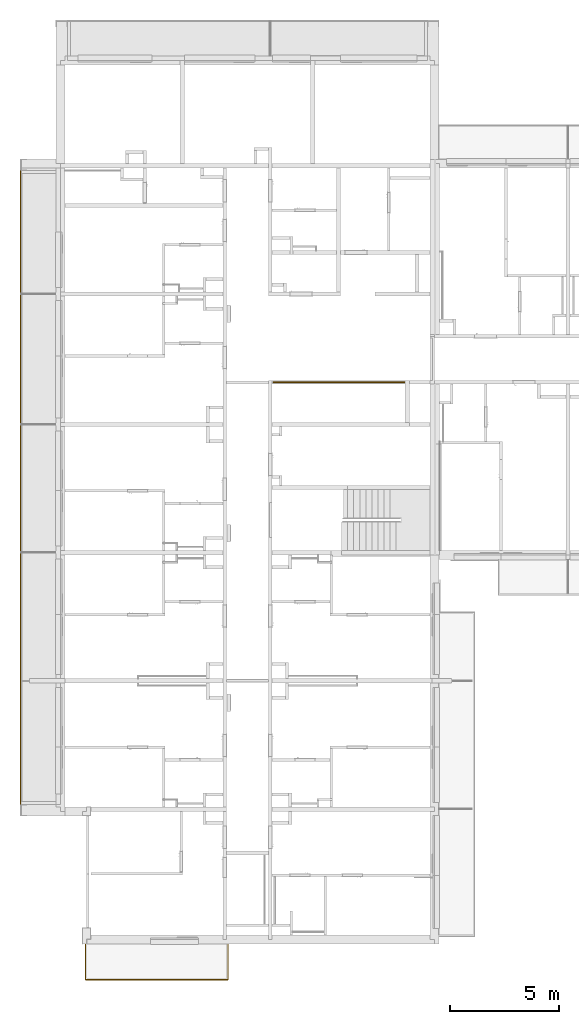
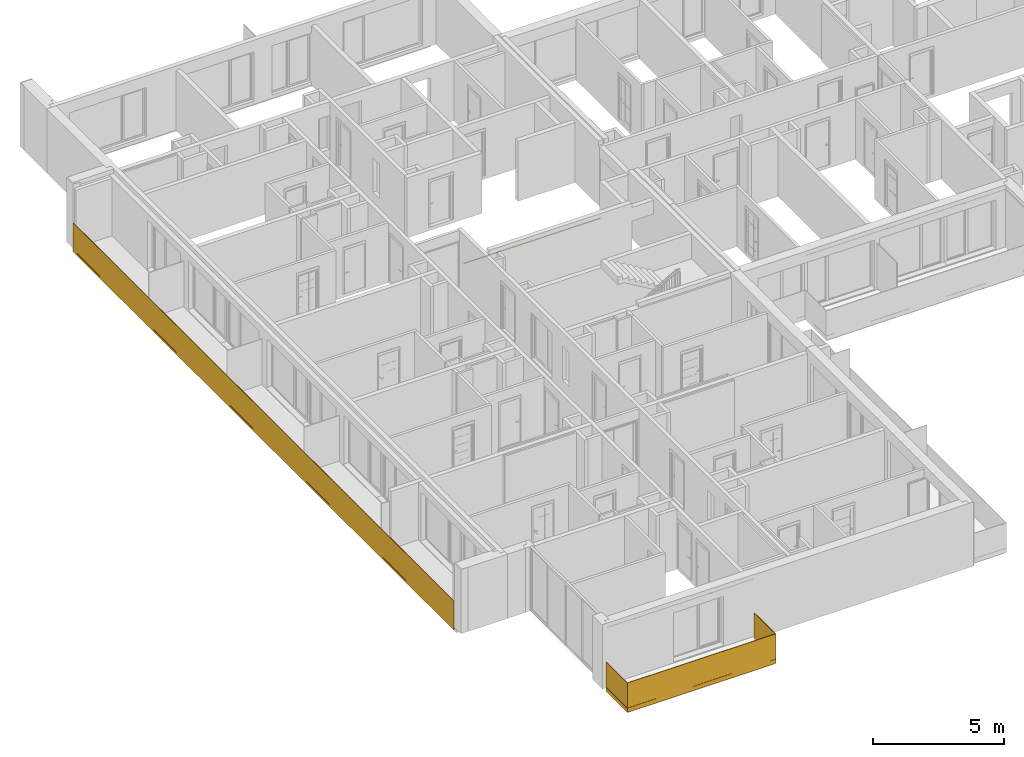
# One storey, part 3 of 64: 3 railings.
"""IFC2X3 building model written with IfcOpenShell, lengths in millimetres."""

from ifc_helpers import new_model, entity, si_unit, converted_unit, derived_unit, money_unit, direction, frame, origin_with_axes, place, context, subcontext, project, spatial, faceted_brep, material, material_list, type_object, element, save


model = new_model("IFC2X3")

# Units and contexts
model_context = context("Model", 3, precision=0.01, world=origin_with_axes(), true_north=direction((0.34421633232, 0.938890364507)))
body_context = subcontext(model_context, "Body", "Model", "MODEL_VIEW")
ifc_project = project(units=[si_unit("LENGTHUNIT", "METRE", prefix="MILLI"), si_unit("AREAUNIT", "SQUARE_METRE"), si_unit("VOLUMEUNIT", "CUBIC_METRE"), converted_unit("PLANEANGLEUNIT", "DEGREE", entity("IfcPlaneAngleMeasure", 0.0174532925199), si_unit("PLANEANGLEUNIT", "RADIAN"), dimensions=[0, 0, 0, 0, 0, 0, 0]), si_unit("SOLIDANGLEUNIT", "STERADIAN"), money_unit("USD"), converted_unit("TIMEUNIT", "Year", entity("IfcTimeMeasure", 31556926.0), si_unit("TIMEUNIT", "SECOND"), dimensions=[0, 0, 1, 0, 0, 0, 0]), si_unit("MASSUNIT", "GRAM", prefix="KILO"), si_unit("THERMODYNAMICTEMPERATUREUNIT", "DEGREE_CELSIUS"), si_unit("LUMINOUSINTENSITYUNIT", "LUMEN"), si_unit("ENERGYUNIT", "JOULE", prefix="MEGA"), derived_unit("THERMALCONDUCTANCEUNIT", [(si_unit("POWERUNIT", "WATT"), 1), (si_unit("LENGTHUNIT", "METRE"), -1), (si_unit("THERMODYNAMICTEMPERATUREUNIT", "KELVIN"), -1)]), derived_unit("SPECIFICHEATCAPACITYUNIT", [(si_unit("ENERGYUNIT", "JOULE"), 1), (si_unit("MASSUNIT", "GRAM", prefix="KILO"), -1), (si_unit("THERMODYNAMICTEMPERATUREUNIT", "KELVIN"), -1)]), derived_unit("MASSDENSITYUNIT", [(si_unit("MASSUNIT", "GRAM", prefix="KILO"), 1), (si_unit("VOLUMEUNIT", "CUBIC_METRE"), -1)])], contexts=[model_context])

# Site, building, storey
site_placement = place(None, origin_with_axes())
site = spatial("IfcSite", under=ifc_project, at=site_placement, Name="USTRONIE MORSKIE", CompositionType="ELEMENT")
building_placement = place(site_placement, origin_with_axes())
building = spatial("IfcBuilding", under=site, at=building_placement, Name="Budynek", CompositionType="ELEMENT")
storey_placement = place(building_placement, frame((0.0, 0.0, 7000.0), z_axis=(0.0, 0.0, 1.0), x_axis=(1.0, 0.0, 0.0)))
storey = spatial("IfcBuildingStorey", under=building, at=storey_placement, Name="PIĘTRO 2", CompositionType="ELEMENT", Elevation=7000.0)

# Railings
ifc_material_1 = material(Name="Szkło struktualne")
ifc_material_2 = material(Name="Profile aluminiowe")
ifc_material_list_1 = material_list([ifc_material_1, ifc_material_2])
railing_type = type_object("IfcRailingType", Name="Typ balustrady", PredefinedType="NOTDEFINED")
railing_1_placement = place(storey_placement, frame((348117.920919, 744471.199036, -200.0), z_axis=(0.0, 0.0, 1.0), x_axis=(-1.0, 0.0, 0.0)))
element("IfcRailing", 1, at=railing_1_placement, inside=storey, type_object=railing_type, material=ifc_material_list_1, Name="BL1", PredefinedType="NOTDEFINED", context=body_context, shape_type="Brep", body=[
    faceted_brep([(-9.99999999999, 29140.0, -100.0), (-9.99999999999, 0.0, -100.0), (-9.99999999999, 0.0, 1250.0), (-9.99999999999, 29140.0, 1250.0), (9.99999999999, 0.0, -100.0), (9.99999999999, 29140.0, -100.0), (9.99999999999, 0.0, 1250.0), (9.99999999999, 29140.0, 1250.0)], [[[0, 1, 2, 3]], [[4, 1, 0, 5]], [[6, 2, 1, 4]], [[3, 2, 6, 7]], [[0, 3, 7, 5]], [[6, 4, 5, 7]]]),
    faceted_brep([(15.0, 29140.0, -5.0), (15.0, 0.0, -5.0), (15.0, 0.0, -105.0), (15.0, 29140.0, -105.0), (9.99999999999, 29140.0, -5.0), (9.99999999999, 0.0, -5.0), (9.99999999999, 0.0, -100.0), (-9.99999999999, 0.0, -100.0), (-9.99999999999, 0.0, -5.0), (-15.0, 0.0, -5.0), (-15.0, 0.0, -105.0), (-15.0, 29140.0, -105.0), (-15.0, 29140.0, -5.0), (-9.99999999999, 29140.0, -5.0), (-9.99999999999, 29140.0, -100.0), (9.99999999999, 29140.0, -100.0)], [[[0, 1, 2, 3]], [[1, 0, 4, 5]], [[6, 7, 8, 9, 10, 2, 1, 5]], [[10, 11, 3, 2]], [[11, 12, 13, 14, 15, 4, 0, 3]], [[15, 6, 5, 4]], [[7, 6, 15, 14]], [[8, 7, 14, 13]], [[9, 8, 13, 12]], [[11, 10, 9, 12]]]),
])
ifc_material_3 = material(Name="Stal nierdzewna")
ifc_material_list_2 = material_list([ifc_material_3, ifc_material_3, ifc_material_3])
railing_2_placement = place(storey_placement, frame((365767.926125, 734741.198985, 0.0), z_axis=(0.0, 0.0, 1.0), x_axis=(-1.0, 0.0, 0.0)))
element("IfcRailing", 2, at=railing_2_placement, inside=storey, type_object=railing_type, material=ifc_material_list_2, Name="BL1", PredefinedType="NOTDEFINED", context=body_context, shape_type="Brep", body=[
    faceted_brep([(20.0, -25.0, 975.0), (20.0, -24.6201938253, 979.341204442), (-30.0, -24.6201938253, 979.341204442), (-30.0, -25.0, 975.0), (20.0, -24.6201938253, 970.658795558), (20.0, -23.4923155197, 966.449496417), (20.0, -21.6506350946, 962.5), (20.0, -19.151111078, 958.930309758), (20.0, -16.0696902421, 955.848888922), (20.0, -12.5, 953.349364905), (20.0, -8.55050358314, 951.50768448), (20.0, -4.34120444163, 950.379806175), (20.0, 0.0, 950.0), (20.0, 4.34120444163, 950.379806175), (20.0, 8.55050358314, 951.50768448), (20.0, 12.5, 953.349364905), (20.0, 16.0696902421, 955.848888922), (20.0, 19.151111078, 958.930309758), (20.0, 21.6506350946, 962.5), (20.0, 23.4923155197, 966.449496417), (20.0, 24.6201938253, 970.658795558), (20.0, 25.0, 975.0), (20.0, 24.6201938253, 979.341204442), (20.0, 23.4923155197, 983.550503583), (20.0, 21.6506350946, 987.5), (20.0, 19.151111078, 991.069690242), (20.0, 16.0696902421, 994.151111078), (20.0, 12.5, 996.650635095), (20.0, 8.55050358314, 998.49231552), (20.0, 4.34120444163, 999.620193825), (20.0, 0.0, 1000.0), (20.0, -4.34120444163, 999.620193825), (20.0, -8.55050358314, 998.49231552), (20.0, -12.5, 996.650635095), (20.0, -16.0696902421, 994.151111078), (20.0, -19.151111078, 991.069690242), (20.0, -21.6506350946, 987.5), (20.0, -23.4923155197, 983.550503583), (20.0, -15.0, 975.0), (20.0, -14.7721162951, 977.604722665), (20.0, -14.0953893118, 980.13030215), (20.0, -12.9903810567, 982.5), (20.0, -11.4906666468, 984.641814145), (20.0, -9.64181414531, 986.490666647), (20.0, -7.50000000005, 987.990381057), (20.0, -5.13030214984, 989.095389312), (20.0, -2.60472266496, 989.772116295), (20.0, 0.0, 990.0), (20.0, 2.60472266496, 989.772116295), (20.0, 5.13030214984, 989.095389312), (20.0, 7.50000000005, 987.990381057), (20.0, 9.64181414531, 986.490666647), (20.0, 11.4906666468, 984.641814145), (20.0, 12.9903810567, 982.5), (20.0, 14.0953893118, 980.13030215), (20.0, 14.7721162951, 977.604722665), (20.0, 15.0, 975.0), (20.0, 14.7721162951, 972.395277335), (20.0, 14.0953893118, 969.86969785), (20.0, 12.9903810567, 967.5), (20.0, 11.4906666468, 965.358185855), (20.0, 9.64181414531, 963.509333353), (20.0, 7.50000000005, 962.009618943), (20.0, 5.13030214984, 960.904610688), (20.0, 2.60472266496, 960.227883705), (20.0, 0.0, 960.0), (20.0, -2.60472266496, 960.227883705), (20.0, -5.13030214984, 960.904610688), (20.0, -7.50000000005, 962.009618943), (20.0, -9.64181414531, 963.509333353), (20.0, -11.4906666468, 965.358185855), (20.0, -12.9903810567, 967.5), (20.0, -14.0953893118, 969.86969785), (20.0, -14.7721162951, 972.395277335), (-30.0, -23.4923155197, 983.550503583), (-30.0, -21.6506350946, 987.5), (-30.0, -19.151111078, 991.069690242), (-30.0, -16.0696902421, 994.151111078), (-30.0, -12.5, 996.650635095), (-30.0, -8.55050358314, 998.49231552), (-30.0, -4.34120444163, 999.620193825), (-30.0, 0.0, 1000.0), (-30.0, 4.34120444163, 999.620193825), (-30.0, 8.55050358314, 998.49231552), (-30.0, 12.5, 996.650635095), (-30.0, 16.0696902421, 994.151111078), (-30.0, 19.151111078, 991.069690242), (-30.0, 21.6506350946, 987.5), (-30.0, 23.4923155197, 983.550503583), (-30.0, 24.6201938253, 979.341204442), (-30.0, 25.0, 975.0), (-30.0, 24.6201938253, 970.658795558), (-30.0, 23.4923155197, 966.449496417), (-30.0, 21.6506350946, 962.5), (-30.0, 19.151111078, 958.930309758), (-30.0, 16.0696902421, 955.848888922), (-30.0, 12.5, 953.349364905), (-30.0, 8.55050358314, 951.50768448), (-30.0, 4.34120444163, 950.379806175), (-30.0, 0.0, 950.0), (-30.0, -4.34120444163, 950.379806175), (-30.0, -8.55050358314, 951.50768448), (-30.0, -12.5, 953.349364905), (-30.0, -16.0696902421, 955.848888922), (-30.0, -19.151111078, 958.930309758), (-30.0, -21.6506350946, 962.5), (-30.0, -23.4923155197, 966.449496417), (-30.0, -24.6201938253, 970.658795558), (-30.0, -15.0, 975.0), (-30.0, -14.7721162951, 972.395277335), (-30.0, -14.0953893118, 969.86969785), (-30.0, -12.9903810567, 967.5), (-30.0, -11.4906666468, 965.358185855), (-30.0, -9.64181414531, 963.509333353), (-30.0, -7.50000000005, 962.009618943), (-30.0, -5.13030214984, 960.904610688), (-30.0, -2.60472266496, 960.227883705), (-30.0, 0.0, 960.0), (-30.0, 2.60472266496, 960.227883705), (-30.0, 5.13030214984, 960.904610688), (-30.0, 7.50000000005, 962.009618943), (-30.0, 9.64181414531, 963.509333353), (-30.0, 11.4906666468, 965.358185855), (-30.0, 12.9903810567, 967.5), (-30.0, 14.0953893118, 969.86969785), (-30.0, 14.7721162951, 972.395277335), (-30.0, 15.0, 975.0), (-30.0, 14.7721162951, 977.604722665), (-30.0, 14.0953893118, 980.13030215), (-30.0, 12.9903810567, 982.5), (-30.0, 11.4906666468, 984.641814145), (-30.0, 9.64181414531, 986.490666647), (-30.0, 7.50000000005, 987.990381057), (-30.0, 5.13030214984, 989.095389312), (-30.0, 2.60472266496, 989.772116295), (-30.0, 0.0, 990.0), (-30.0, -2.60472266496, 989.772116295), (-30.0, -5.13030214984, 989.095389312), (-30.0, -7.50000000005, 987.990381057), (-30.0, -9.64181414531, 986.490666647), (-30.0, -11.4906666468, 984.641814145), (-30.0, -12.9903810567, 982.5), (-30.0, -14.0953893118, 980.13030215), (-30.0, -14.7721162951, 977.604722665)], [[[0, 1, 2, 3]], [[0, 4, 5, 6, 7, 8, 9, 10, 11, 12, 13, 14, 15, 16, 17, 18, 19, 20, 21, 22, 23, 24, 25, 26, 27, 28, 29, 30, 31, 32, 33, 34, 35, 36, 37, 1], [38, 39, 40, 41, 42, 43, 44, 45, 46, 47, 48, 49, 50, 51, 52, 53, 54, 55, 56, 57, 58, 59, 60, 61, 62, 63, 64, 65, 66, 67, 68, 69, 70, 71, 72, 73]], [[1, 37, 74, 2]], [[3, 2, 74, 75, 76, 77, 78, 79, 80, 81, 82, 83, 84, 85, 86, 87, 88, 89, 90, 91, 92, 93, 94, 95, 96, 97, 98, 99, 100, 101, 102, 103, 104, 105, 106, 107], [108, 109, 110, 111, 112, 113, 114, 115, 116, 117, 118, 119, 120, 121, 122, 123, 124, 125, 126, 127, 128, 129, 130, 131, 132, 133, 134, 135, 136, 137, 138, 139, 140, 141, 142, 143]], [[4, 0, 3, 107]], [[5, 4, 107, 106]], [[6, 5, 106, 105]], [[7, 6, 105, 104]], [[8, 7, 104, 103]], [[9, 8, 103, 102]], [[10, 9, 102, 101]], [[11, 10, 101, 100]], [[12, 11, 100, 99]], [[13, 12, 99, 98]], [[14, 13, 98, 97]], [[15, 14, 97, 96]], [[16, 15, 96, 95]], [[17, 16, 95, 94]], [[18, 17, 94, 93]], [[19, 18, 93, 92]], [[20, 19, 92, 91]], [[21, 20, 91, 90]], [[22, 21, 90, 89]], [[23, 22, 89, 88]], [[24, 23, 88, 87]], [[25, 24, 87, 86]], [[26, 25, 86, 85]], [[27, 26, 85, 84]], [[28, 27, 84, 83]], [[29, 28, 83, 82]], [[30, 29, 82, 81]], [[31, 30, 81, 80]], [[32, 31, 80, 79]], [[33, 32, 79, 78]], [[34, 33, 78, 77]], [[35, 34, 77, 76]], [[36, 35, 76, 75]], [[37, 36, 75, 74]], [[39, 38, 108, 143]], [[40, 39, 143, 142]], [[41, 40, 142, 141]], [[42, 41, 141, 140]], [[43, 42, 140, 139]], [[44, 43, 139, 138]], [[45, 44, 138, 137]], [[46, 45, 137, 136]], [[47, 46, 136, 135]], [[48, 47, 135, 134]], [[49, 48, 134, 133]], [[50, 49, 133, 132]], [[51, 50, 132, 131]], [[52, 51, 131, 130]], [[53, 52, 130, 129]], [[54, 53, 129, 128]], [[55, 54, 128, 127]], [[56, 55, 127, 126]], [[57, 56, 126, 125]], [[58, 57, 125, 124]], [[59, 58, 124, 123]], [[60, 59, 123, 122]], [[61, 60, 122, 121]], [[62, 61, 121, 120]], [[63, 62, 120, 119]], [[64, 63, 119, 118]], [[65, 64, 118, 117]], [[66, 65, 117, 116]], [[67, 66, 116, 115]], [[68, 67, 115, 114]], [[69, 68, 114, 113]], [[70, 69, 113, 112]], [[71, 70, 112, 111]], [[72, 71, 111, 110]], [[73, 72, 110, 109]], [[38, 73, 109, 108]]]),
    faceted_brep([(5970.00520575, 25.0, 975.0), (5970.00520575, 24.6201938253, 979.341204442), (6020.00520575, 24.6201938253, 979.341204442), (6020.00520575, 25.0, 975.0), (5970.00520575, 24.6201938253, 970.658795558), (5970.00520575, 23.4923155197, 966.449496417), (5970.00520575, 21.6506350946, 962.5), (5970.00520575, 19.151111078, 958.930309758), (5970.00520575, 16.0696902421, 955.848888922), (5970.00520575, 12.5, 953.349364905), (5970.00520575, 8.55050358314, 951.50768448), (5970.00520575, 4.34120444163, 950.379806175), (5970.00520575, 0.0, 950.0), (5970.00520575, -4.34120444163, 950.379806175), (5970.00520575, -8.55050358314, 951.50768448), (5970.00520575, -12.5, 953.349364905), (5970.00520575, -16.0696902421, 955.848888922), (5970.00520575, -19.151111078, 958.930309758), (5970.00520575, -21.6506350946, 962.5), (5970.00520575, -23.4923155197, 966.449496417), (5970.00520575, -24.6201938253, 970.658795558), (5970.00520575, -25.0, 975.0), (5970.00520575, -24.6201938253, 979.341204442), (5970.00520575, -23.4923155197, 983.550503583), (5970.00520575, -21.6506350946, 987.5), (5970.00520575, -19.151111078, 991.069690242), (5970.00520575, -16.0696902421, 994.151111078), (5970.00520575, -12.5, 996.650635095), (5970.00520575, -8.55050358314, 998.49231552), (5970.00520575, -4.34120444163, 999.620193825), (5970.00520575, 0.0, 1000.0), (5970.00520575, 4.34120444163, 999.620193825), (5970.00520575, 8.55050358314, 998.49231552), (5970.00520575, 12.5, 996.650635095), (5970.00520575, 16.0696902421, 994.151111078), (5970.00520575, 19.151111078, 991.069690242), (5970.00520575, 21.6506350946, 987.5), (5970.00520575, 23.4923155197, 983.550503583), (5970.00520575, 15.0, 975.0), (5970.00520575, 14.7721162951, 977.604722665), (5970.00520575, 14.0953893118, 980.13030215), (5970.00520575, 12.9903810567, 982.5), (5970.00520575, 11.4906666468, 984.641814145), (5970.00520575, 9.64181414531, 986.490666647), (5970.00520575, 7.50000000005, 987.990381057), (5970.00520575, 5.13030214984, 989.095389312), (5970.00520575, 2.60472266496, 989.772116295), (5970.00520575, 0.0, 990.0), (5970.00520575, -2.60472266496, 989.772116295), (5970.00520575, -5.13030214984, 989.095389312), (5970.00520575, -7.50000000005, 987.990381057), (5970.00520575, -9.64181414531, 986.490666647), (5970.00520575, -11.4906666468, 984.641814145), (5970.00520575, -12.9903810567, 982.5), (5970.00520575, -14.0953893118, 980.13030215), (5970.00520575, -14.7721162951, 977.604722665), (5970.00520575, -15.0, 975.0), (5970.00520575, -14.7721162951, 972.395277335), (5970.00520575, -14.0953893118, 969.86969785), (5970.00520575, -12.9903810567, 967.5), (5970.00520575, -11.4906666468, 965.358185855), (5970.00520575, -9.64181414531, 963.509333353), (5970.00520575, -7.50000000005, 962.009618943), (5970.00520575, -5.13030214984, 960.904610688), (5970.00520575, -2.60472266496, 960.227883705), (5970.00520575, 0.0, 960.0), (5970.00520575, 2.60472266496, 960.227883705), (5970.00520575, 5.13030214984, 960.904610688), (5970.00520575, 7.50000000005, 962.009618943), (5970.00520575, 9.64181414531, 963.509333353), (5970.00520575, 11.4906666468, 965.358185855), (5970.00520575, 12.9903810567, 967.5), (5970.00520575, 14.0953893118, 969.86969785), (5970.00520575, 14.7721162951, 972.395277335), (6020.00520575, 23.4923155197, 983.550503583), (6020.00520575, 21.6506350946, 987.5), (6020.00520575, 19.151111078, 991.069690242), (6020.00520575, 16.0696902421, 994.151111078), (6020.00520575, 12.5, 996.650635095), (6020.00520575, 8.55050358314, 998.49231552), (6020.00520575, 4.34120444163, 999.620193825), (6020.00520575, 0.0, 1000.0), (6020.00520575, -4.34120444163, 999.620193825), (6020.00520575, -8.55050358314, 998.49231552), (6020.00520575, -12.5, 996.650635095), (6020.00520575, -16.0696902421, 994.151111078), (6020.00520575, -19.151111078, 991.069690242), (6020.00520575, -21.6506350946, 987.5), (6020.00520575, -23.4923155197, 983.550503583), (6020.00520575, -24.6201938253, 979.341204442), (6020.00520575, -25.0, 975.0), (6020.00520575, -24.6201938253, 970.658795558), (6020.00520575, -23.4923155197, 966.449496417), (6020.00520575, -21.6506350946, 962.5), (6020.00520575, -19.151111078, 958.930309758), (6020.00520575, -16.0696902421, 955.848888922), (6020.00520575, -12.5, 953.349364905), (6020.00520575, -8.55050358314, 951.50768448), (6020.00520575, -4.34120444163, 950.379806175), (6020.00520575, 0.0, 950.0), (6020.00520575, 4.34120444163, 950.379806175), (6020.00520575, 8.55050358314, 951.50768448), (6020.00520575, 12.5, 953.349364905), (6020.00520575, 16.0696902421, 955.848888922), (6020.00520575, 19.151111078, 958.930309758), (6020.00520575, 21.6506350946, 962.5), (6020.00520575, 23.4923155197, 966.449496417), (6020.00520575, 24.6201938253, 970.658795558), (6020.00520575, 15.0, 975.0), (6020.00520575, 14.7721162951, 972.395277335), (6020.00520575, 14.0953893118, 969.86969785), (6020.00520575, 12.9903810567, 967.5), (6020.00520575, 11.4906666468, 965.358185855), (6020.00520575, 9.64181414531, 963.509333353), (6020.00520575, 7.50000000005, 962.009618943), (6020.00520575, 5.13030214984, 960.904610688), (6020.00520575, 2.60472266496, 960.227883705), (6020.00520575, 0.0, 960.0), (6020.00520575, -2.60472266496, 960.227883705), (6020.00520575, -5.13030214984, 960.904610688), (6020.00520575, -7.50000000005, 962.009618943), (6020.00520575, -9.64181414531, 963.509333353), (6020.00520575, -11.4906666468, 965.358185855), (6020.00520575, -12.9903810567, 967.5), (6020.00520575, -14.0953893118, 969.86969785), (6020.00520575, -14.7721162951, 972.395277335), (6020.00520575, -15.0, 975.0), (6020.00520575, -14.7721162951, 977.604722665), (6020.00520575, -14.0953893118, 980.13030215), (6020.00520575, -12.9903810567, 982.5), (6020.00520575, -11.4906666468, 984.641814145), (6020.00520575, -9.64181414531, 986.490666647), (6020.00520575, -7.50000000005, 987.990381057), (6020.00520575, -5.13030214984, 989.095389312), (6020.00520575, -2.60472266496, 989.772116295), (6020.00520575, 0.0, 990.0), (6020.00520575, 2.60472266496, 989.772116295), (6020.00520575, 5.13030214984, 989.095389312), (6020.00520575, 7.50000000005, 987.990381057), (6020.00520575, 9.64181414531, 986.490666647), (6020.00520575, 11.4906666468, 984.641814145), (6020.00520575, 12.9903810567, 982.5), (6020.00520575, 14.0953893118, 980.13030215), (6020.00520575, 14.7721162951, 977.604722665)], [[[0, 1, 2, 3]], [[0, 4, 5, 6, 7, 8, 9, 10, 11, 12, 13, 14, 15, 16, 17, 18, 19, 20, 21, 22, 23, 24, 25, 26, 27, 28, 29, 30, 31, 32, 33, 34, 35, 36, 37, 1], [38, 39, 40, 41, 42, 43, 44, 45, 46, 47, 48, 49, 50, 51, 52, 53, 54, 55, 56, 57, 58, 59, 60, 61, 62, 63, 64, 65, 66, 67, 68, 69, 70, 71, 72, 73]], [[1, 37, 74, 2]], [[3, 2, 74, 75, 76, 77, 78, 79, 80, 81, 82, 83, 84, 85, 86, 87, 88, 89, 90, 91, 92, 93, 94, 95, 96, 97, 98, 99, 100, 101, 102, 103, 104, 105, 106, 107], [108, 109, 110, 111, 112, 113, 114, 115, 116, 117, 118, 119, 120, 121, 122, 123, 124, 125, 126, 127, 128, 129, 130, 131, 132, 133, 134, 135, 136, 137, 138, 139, 140, 141, 142, 143]], [[4, 0, 3, 107]], [[5, 4, 107, 106]], [[6, 5, 106, 105]], [[7, 6, 105, 104]], [[8, 7, 104, 103]], [[9, 8, 103, 102]], [[10, 9, 102, 101]], [[11, 10, 101, 100]], [[12, 11, 100, 99]], [[13, 12, 99, 98]], [[14, 13, 98, 97]], [[15, 14, 97, 96]], [[16, 15, 96, 95]], [[17, 16, 95, 94]], [[18, 17, 94, 93]], [[19, 18, 93, 92]], [[20, 19, 92, 91]], [[21, 20, 91, 90]], [[22, 21, 90, 89]], [[23, 22, 89, 88]], [[24, 23, 88, 87]], [[25, 24, 87, 86]], [[26, 25, 86, 85]], [[27, 26, 85, 84]], [[28, 27, 84, 83]], [[29, 28, 83, 82]], [[30, 29, 82, 81]], [[31, 30, 81, 80]], [[32, 31, 80, 79]], [[33, 32, 79, 78]], [[34, 33, 78, 77]], [[35, 34, 77, 76]], [[36, 35, 76, 75]], [[37, 36, 75, 74]], [[39, 38, 108, 143]], [[40, 39, 143, 142]], [[41, 40, 142, 141]], [[42, 41, 141, 140]], [[43, 42, 140, 139]], [[44, 43, 139, 138]], [[45, 44, 138, 137]], [[46, 45, 137, 136]], [[47, 46, 136, 135]], [[48, 47, 135, 134]], [[49, 48, 134, 133]], [[50, 49, 133, 132]], [[51, 50, 132, 131]], [[52, 51, 131, 130]], [[53, 52, 130, 129]], [[54, 53, 129, 128]], [[55, 54, 128, 127]], [[56, 55, 127, 126]], [[57, 56, 126, 125]], [[58, 57, 125, 124]], [[59, 58, 124, 123]], [[60, 59, 123, 122]], [[61, 60, 122, 121]], [[62, 61, 121, 120]], [[63, 62, 120, 119]], [[64, 63, 119, 118]], [[65, 64, 118, 117]], [[66, 65, 117, 116]], [[67, 66, 116, 115]], [[68, 67, 115, 114]], [[69, 68, 114, 113]], [[70, 69, 113, 112]], [[71, 70, 112, 111]], [[72, 71, 111, 110]], [[73, 72, 110, 109]], [[38, 73, 109, 108]]]),
    faceted_brep([(20.0, 25.0, 975.0), (20.0, 24.6201938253, 979.341204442), (5970.00520575, 24.6201938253, 979.341204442), (5970.00520575, 25.0, 975.0), (20.0, 24.6201938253, 970.658795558), (20.0, 23.4923155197, 966.449496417), (20.0, 21.6506350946, 962.5), (20.0, 19.151111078, 958.930309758), (20.0, 16.0696902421, 955.848888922), (20.0, 12.5, 953.349364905), (20.0, 8.55050358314, 951.50768448), (20.0, 4.34120444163, 950.379806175), (20.0, 0.0, 950.0), (20.0, -4.34120444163, 950.379806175), (20.0, -8.55050358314, 951.50768448), (20.0, -12.5, 953.349364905), (20.0, -16.0696902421, 955.848888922), (20.0, -19.151111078, 958.930309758), (20.0, -21.6506350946, 962.5), (20.0, -23.4923155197, 966.449496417), (20.0, -24.6201938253, 970.658795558), (20.0, -25.0, 975.0), (20.0, -24.6201938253, 979.341204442), (20.0, -23.4923155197, 983.550503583), (20.0, -21.6506350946, 987.5), (20.0, -19.151111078, 991.069690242), (20.0, -16.0696902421, 994.151111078), (20.0, -12.5, 996.650635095), (20.0, -8.55050358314, 998.49231552), (20.0, -4.34120444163, 999.620193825), (20.0, 0.0, 1000.0), (20.0, 4.34120444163, 999.620193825), (20.0, 8.55050358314, 998.49231552), (20.0, 12.5, 996.650635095), (20.0, 16.0696902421, 994.151111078), (20.0, 19.151111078, 991.069690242), (20.0, 21.6506350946, 987.5), (20.0, 23.4923155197, 983.550503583), (20.0, 15.0, 975.0), (20.0, 14.7721162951, 977.604722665), (20.0, 14.0953893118, 980.13030215), (20.0, 12.9903810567, 982.5), (20.0, 11.4906666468, 984.641814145), (20.0, 9.64181414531, 986.490666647), (20.0, 7.50000000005, 987.990381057), (20.0, 5.13030214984, 989.095389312), (20.0, 2.60472266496, 989.772116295), (20.0, 0.0, 990.0), (20.0, -2.60472266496, 989.772116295), (20.0, -5.13030214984, 989.095389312), (20.0, -7.50000000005, 987.990381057), (20.0, -9.64181414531, 986.490666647), (20.0, -11.4906666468, 984.641814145), (20.0, -12.9903810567, 982.5), (20.0, -14.0953893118, 980.13030215), (20.0, -14.7721162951, 977.604722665), (20.0, -15.0, 975.0), (20.0, -14.7721162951, 972.395277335), (20.0, -14.0953893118, 969.86969785), (20.0, -12.9903810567, 967.5), (20.0, -11.4906666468, 965.358185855), (20.0, -9.64181414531, 963.509333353), (20.0, -7.50000000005, 962.009618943), (20.0, -5.13030214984, 960.904610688), (20.0, -2.60472266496, 960.227883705), (20.0, 0.0, 960.0), (20.0, 2.60472266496, 960.227883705), (20.0, 5.13030214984, 960.904610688), (20.0, 7.50000000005, 962.009618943), (20.0, 9.64181414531, 963.509333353), (20.0, 11.4906666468, 965.358185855), (20.0, 12.9903810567, 967.5), (20.0, 14.0953893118, 969.86969785), (20.0, 14.7721162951, 972.395277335), (5970.00520575, 23.4923155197, 983.550503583), (5970.00520575, 21.6506350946, 987.5), (5970.00520575, 19.151111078, 991.069690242), (5970.00520575, 16.0696902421, 994.151111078), (5970.00520575, 12.5, 996.650635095), (5970.00520575, 8.55050358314, 998.49231552), (5970.00520575, 4.34120444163, 999.620193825), (5970.00520575, 0.0, 1000.0), (5970.00520575, -4.34120444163, 999.620193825), (5970.00520575, -8.55050358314, 998.49231552), (5970.00520575, -12.5, 996.650635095), (5970.00520575, -16.0696902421, 994.151111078), (5970.00520575, -19.151111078, 991.069690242), (5970.00520575, -21.6506350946, 987.5), (5970.00520575, -23.4923155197, 983.550503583), (5970.00520575, -24.6201938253, 979.341204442), (5970.00520575, -25.0, 975.0), (5970.00520575, -24.6201938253, 970.658795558), (5970.00520575, -23.4923155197, 966.449496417), (5970.00520575, -21.6506350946, 962.5), (5970.00520575, -19.151111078, 958.930309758), (5970.00520575, -16.0696902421, 955.848888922), (5970.00520575, -12.5, 953.349364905), (5970.00520575, -8.55050358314, 951.50768448), (5970.00520575, -4.34120444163, 950.379806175), (5970.00520575, 0.0, 950.0), (5970.00520575, 4.34120444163, 950.379806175), (5970.00520575, 8.55050358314, 951.50768448), (5970.00520575, 12.5, 953.349364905), (5970.00520575, 16.0696902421, 955.848888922), (5970.00520575, 19.151111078, 958.930309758), (5970.00520575, 21.6506350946, 962.5), (5970.00520575, 23.4923155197, 966.449496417), (5970.00520575, 24.6201938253, 970.658795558), (5970.00520575, 15.0, 975.0), (5970.00520575, 14.7721162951, 972.395277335), (5970.00520575, 14.0953893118, 969.86969785), (5970.00520575, 12.9903810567, 967.5), (5970.00520575, 11.4906666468, 965.358185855), (5970.00520575, 9.64181414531, 963.509333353), (5970.00520575, 7.50000000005, 962.009618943), (5970.00520575, 5.13030214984, 960.904610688), (5970.00520575, 2.60472266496, 960.227883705), (5970.00520575, 0.0, 960.0), (5970.00520575, -2.60472266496, 960.227883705), (5970.00520575, -5.13030214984, 960.904610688), (5970.00520575, -7.50000000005, 962.009618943), (5970.00520575, -9.64181414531, 963.509333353), (5970.00520575, -11.4906666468, 965.358185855), (5970.00520575, -12.9903810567, 967.5), (5970.00520575, -14.0953893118, 969.86969785), (5970.00520575, -14.7721162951, 972.395277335), (5970.00520575, -15.0, 975.0), (5970.00520575, -14.7721162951, 977.604722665), (5970.00520575, -14.0953893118, 980.13030215), (5970.00520575, -12.9903810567, 982.5), (5970.00520575, -11.4906666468, 984.641814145), (5970.00520575, -9.64181414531, 986.490666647), (5970.00520575, -7.50000000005, 987.990381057), (5970.00520575, -5.13030214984, 989.095389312), (5970.00520575, -2.60472266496, 989.772116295), (5970.00520575, 0.0, 990.0), (5970.00520575, 2.60472266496, 989.772116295), (5970.00520575, 5.13030214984, 989.095389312), (5970.00520575, 7.50000000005, 987.990381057), (5970.00520575, 9.64181414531, 986.490666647), (5970.00520575, 11.4906666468, 984.641814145), (5970.00520575, 12.9903810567, 982.5), (5970.00520575, 14.0953893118, 980.13030215), (5970.00520575, 14.7721162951, 977.604722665)], [[[0, 1, 2, 3]], [[0, 4, 5, 6, 7, 8, 9, 10, 11, 12, 13, 14, 15, 16, 17, 18, 19, 20, 21, 22, 23, 24, 25, 26, 27, 28, 29, 30, 31, 32, 33, 34, 35, 36, 37, 1], [38, 39, 40, 41, 42, 43, 44, 45, 46, 47, 48, 49, 50, 51, 52, 53, 54, 55, 56, 57, 58, 59, 60, 61, 62, 63, 64, 65, 66, 67, 68, 69, 70, 71, 72, 73]], [[1, 37, 74, 2]], [[3, 2, 74, 75, 76, 77, 78, 79, 80, 81, 82, 83, 84, 85, 86, 87, 88, 89, 90, 91, 92, 93, 94, 95, 96, 97, 98, 99, 100, 101, 102, 103, 104, 105, 106, 107], [108, 109, 110, 111, 112, 113, 114, 115, 116, 117, 118, 119, 120, 121, 122, 123, 124, 125, 126, 127, 128, 129, 130, 131, 132, 133, 134, 135, 136, 137, 138, 139, 140, 141, 142, 143]], [[4, 0, 3, 107]], [[5, 4, 107, 106]], [[6, 5, 106, 105]], [[7, 6, 105, 104]], [[8, 7, 104, 103]], [[9, 8, 103, 102]], [[10, 9, 102, 101]], [[11, 10, 101, 100]], [[12, 11, 100, 99]], [[13, 12, 99, 98]], [[14, 13, 98, 97]], [[15, 14, 97, 96]], [[16, 15, 96, 95]], [[17, 16, 95, 94]], [[18, 17, 94, 93]], [[19, 18, 93, 92]], [[20, 19, 92, 91]], [[21, 20, 91, 90]], [[22, 21, 90, 89]], [[23, 22, 89, 88]], [[24, 23, 88, 87]], [[25, 24, 87, 86]], [[26, 25, 86, 85]], [[27, 26, 85, 84]], [[28, 27, 84, 83]], [[29, 28, 83, 82]], [[30, 29, 82, 81]], [[31, 30, 81, 80]], [[32, 31, 80, 79]], [[33, 32, 79, 78]], [[34, 33, 78, 77]], [[35, 34, 77, 76]], [[36, 35, 76, 75]], [[37, 36, 75, 74]], [[39, 38, 108, 143]], [[40, 39, 143, 142]], [[41, 40, 142, 141]], [[42, 41, 141, 140]], [[43, 42, 140, 139]], [[44, 43, 139, 138]], [[45, 44, 138, 137]], [[46, 45, 137, 136]], [[47, 46, 136, 135]], [[48, 47, 135, 134]], [[49, 48, 134, 133]], [[50, 49, 133, 132]], [[51, 50, 132, 131]], [[52, 51, 131, 130]], [[53, 52, 130, 129]], [[54, 53, 129, 128]], [[55, 54, 128, 127]], [[56, 55, 127, 126]], [[57, 56, 126, 125]], [[58, 57, 125, 124]], [[59, 58, 124, 123]], [[60, 59, 123, 122]], [[61, 60, 122, 121]], [[62, 61, 121, 120]], [[63, 62, 120, 119]], [[64, 63, 119, 118]], [[65, 64, 118, 117]], [[66, 65, 117, 116]], [[67, 66, 116, 115]], [[68, 67, 115, 114]], [[69, 68, 114, 113]], [[70, 69, 113, 112]], [[71, 70, 112, 111]], [[72, 71, 111, 110]], [[73, 72, 110, 109]], [[38, 73, 109, 108]]]),
])
ifc_material_list_3 = material_list([ifc_material_1, ifc_material_2, ifc_material_1, ifc_material_2, ifc_material_1, ifc_material_2])
railing_3_placement = place(storey_placement, frame((357617.920919, 708891.199036, 0.0), z_axis=(0.0, 0.0, 1.0), x_axis=(1.0, 0.0, 0.0)))
element("IfcRailing", 3, at=railing_3_placement, inside=storey, type_object=railing_type, material=ifc_material_list_3, Name="BL1", PredefinedType="NOTDEFINED", context=body_context, shape_type="Brep", body=[
    faceted_brep([(59.9999997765, -19.9999996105, -300.00000039), (59.9999997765, -19.9999996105, 1069.99999972), (59.9999997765, -1649.9999995, 1069.99999972), (59.9999997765, -1649.9999995, -300.00000039), (40.0000002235, -19.9999996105, 1069.99999972), (40.0000002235, -19.9999996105, -300.00000039), (40.0000002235, -1629.99999995, 1069.99999972), (40.0000002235, -1629.99999995, -300.00000039)], [[[0, 1, 2, 3]], [[4, 1, 0, 5]], [[2, 1, 4, 6]], [[3, 2, 6, 7]], [[5, 0, 3, 7]], [[6, 4, 5, 7]]]),
    faceted_brep([(35.0, -1640.0, -105.0), (35.0, -20.0, -105.0), (35.0, -20.0, -305.0), (35.0, -1640.0, -305.0), (40.0, -1640.0, -105.0), (40.0, -20.0, -105.0), (40.0, -20.0, -300.0), (60.0, -20.0, -300.0), (60.0, -20.0, -105.0), (65.0, -20.0, -105.0), (65.0, -20.0, -305.0), (65.0, -1640.0, -305.0), (65.0, -1640.0, -105.0), (60.0, -1640.0, -105.0), (60.0, -1640.0, -300.0), (40.0, -1640.0, -300.0)], [[[0, 1, 2, 3]], [[1, 0, 4, 5]], [[6, 7, 8, 9, 10, 2, 1, 5]], [[10, 11, 3, 2]], [[11, 12, 13, 14, 15, 4, 0, 3]], [[15, 6, 5, 4]], [[7, 6, 15, 14]], [[8, 7, 14, 13]], [[9, 8, 13, 12]], [[11, 10, 9, 12]]]),
    faceted_brep([(60.000000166, -1649.99999978, -300.00000039), (60.000000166, -1649.99999978, 1069.99999972), (-6510.00000013, -1649.99999978, 1069.99999972), (-6510.00000013, -1649.99999978, -300.00000039), (40.000000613, -1630.00000022, 1069.99999972), (40.000000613, -1630.00000022, -300.00000039), (-6490.00000058, -1630.00000022, 1069.99999972), (-6490.00000058, -1630.00000022, -300.00000039)], [[[0, 1, 2, 3]], [[4, 1, 0, 5]], [[2, 1, 4, 6]], [[3, 2, 6, 7]], [[5, 0, 3, 7]], [[6, 4, 5, 7]]]),
    faceted_brep([(-6500.0, -1625.0, -105.0), (50.0, -1625.0, -105.0), (50.0, -1625.0, -305.0), (-6500.0, -1625.0, -305.0), (-6500.0, -1630.0, -105.0), (50.0, -1630.0, -105.0), (50.0, -1630.0, -300.0), (50.0, -1650.0, -300.0), (50.0, -1650.0, -105.0), (50.0, -1655.0, -105.0), (50.0, -1655.0, -305.0), (-6500.0, -1655.0, -305.0), (-6500.0, -1655.0, -105.0), (-6500.0, -1650.0, -105.0), (-6500.0, -1650.0, -300.0), (-6500.0, -1630.0, -300.0)], [[[0, 1, 2, 3]], [[1, 0, 4, 5]], [[6, 7, 8, 9, 10, 2, 1, 5]], [[10, 11, 3, 2]], [[11, 12, 13, 14, 15, 4, 0, 3]], [[15, 6, 5, 4]], [[7, 6, 15, 14]], [[8, 7, 14, 13]], [[9, 8, 13, 12]], [[11, 10, 9, 12]]]),
    faceted_brep([(-6509.99999978, -1650.00000017, -300.00000039), (-6509.99999978, -1650.00000017, 1069.99999972), (-6509.99999978, -19.9993222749, 1069.99999972), (-6509.99999978, -19.9993222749, -300.00000039), (-6490.00000022, -1630.00000061, 1069.99999972), (-6490.00000022, -1630.00000061, -300.00000039), (-6490.00000022, -19.9993222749, 1069.99999972), (-6490.00000022, -19.9993222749, -300.00000039)], [[[0, 1, 2, 3]], [[4, 1, 0, 5]], [[2, 1, 4, 6]], [[3, 2, 6, 7]], [[5, 0, 3, 7]], [[6, 4, 5, 7]]]),
    faceted_brep([(-6485.0, -19.9993224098, -105.0), (-6485.0, -1640.0, -105.0), (-6485.0, -1640.0, -305.0), (-6485.0, -19.9993224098, -305.0), (-6490.0, -19.9993224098, -105.0), (-6490.0, -1640.0, -105.0), (-6490.0, -1640.0, -300.0), (-6510.0, -1640.0, -300.0), (-6510.0, -1640.0, -105.0), (-6515.0, -1640.0, -105.0), (-6515.0, -1640.0, -305.0), (-6515.0, -19.9993224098, -305.0), (-6515.0, -19.9993224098, -105.0), (-6510.0, -19.9993224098, -105.0), (-6510.0, -19.9993224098, -300.0), (-6490.0, -19.9993224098, -300.0)], [[[0, 1, 2, 3]], [[1, 0, 4, 5]], [[6, 7, 8, 9, 10, 2, 1, 5]], [[10, 11, 3, 2]], [[11, 12, 13, 14, 15, 4, 0, 3]], [[15, 6, 5, 4]], [[7, 6, 15, 14]], [[8, 7, 14, 13]], [[9, 8, 13, 12]], [[11, 10, 9, 12]]]),
])

save(model, "model.ifc")
